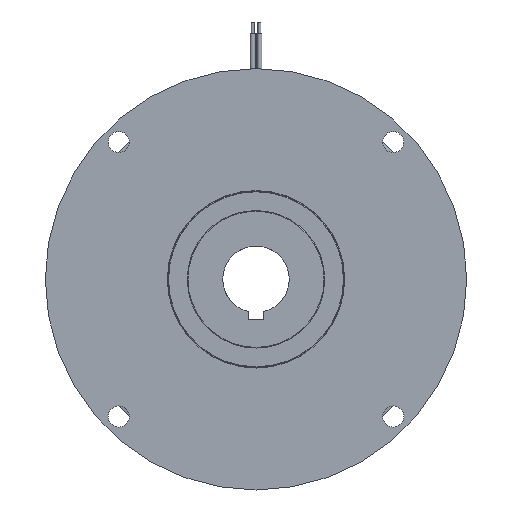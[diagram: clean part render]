
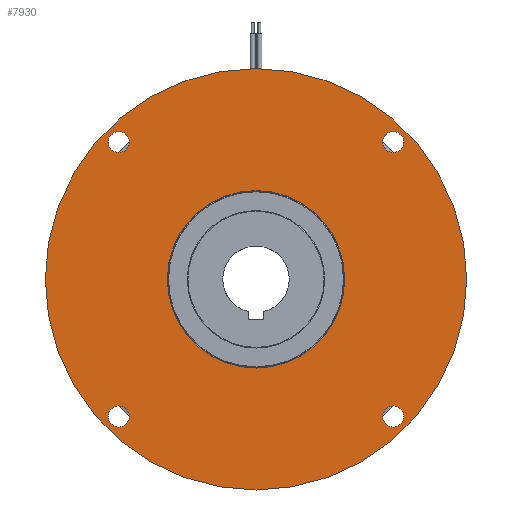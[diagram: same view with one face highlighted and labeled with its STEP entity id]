
A CAD part, front view. The second image highlights one B-rep face of the part: STEP entity #7930.
In plain terms, the highlighted planar face has unit normal (0, -1, 0).
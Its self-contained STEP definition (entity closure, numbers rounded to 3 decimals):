
#60 = DIRECTION ( 'NONE',  ( 0., 0., 1. ) ) ;
#193 = AXIS2_PLACEMENT_3D ( 'NONE', #6507, #2798, #3527 ) ;
#304 = DIRECTION ( 'NONE',  ( 0., 1., 0. ) ) ;
#364 = CIRCLE ( 'NONE', #8284, 40. ) ;
#368 = CARTESIAN_POINT ( 'NONE',  ( -61.872, 0., 57.122 ) ) ;
#372 = CARTESIAN_POINT ( 'NONE',  ( -61.872, 0., -66.622 ) ) ;
#650 = AXIS2_PLACEMENT_3D ( 'NONE', #5064, #4940, #7943 ) ;
#785 = CIRCLE ( 'NONE', #193, 4.75 ) ;
#794 = VERTEX_POINT ( 'NONE', #2701 ) ;
#1204 = CARTESIAN_POINT ( 'NONE',  ( 0., 0., 0. ) ) ;
#1294 = EDGE_CURVE ( 'NONE', #7509, #4501, #6478, .T. ) ;
#1524 = VERTEX_POINT ( 'NONE', #9194 ) ;
#1534 = VERTEX_POINT ( 'NONE', #368 ) ;
#1616 = AXIS2_PLACEMENT_3D ( 'NONE', #9518, #2201, #60 ) ;
#1960 = CIRCLE ( 'NONE', #5315, 4.75 ) ;
#2037 = ORIENTED_EDGE ( 'NONE', *, *, #6535, .T. ) ;
#2089 = EDGE_LOOP ( 'NONE', ( #2314, #3119 ) ) ;
#2201 = DIRECTION ( 'NONE',  ( 0., 1., 0. ) ) ;
#2213 = ORIENTED_EDGE ( 'NONE', *, *, #3895, .T. ) ;
#2308 = CARTESIAN_POINT ( 'NONE',  ( -61.872, 0., 61.872 ) ) ;
#2314 = ORIENTED_EDGE ( 'NONE', *, *, #7970, .T. ) ;
#2470 = AXIS2_PLACEMENT_3D ( 'NONE', #2308, #8828, #6664 ) ;
#2547 = DIRECTION ( 'NONE',  ( 0., 1., 0. ) ) ;
#2553 = ORIENTED_EDGE ( 'NONE', *, *, #7177, .T. ) ;
#2591 = AXIS2_PLACEMENT_3D ( 'NONE', #6250, #6282, #5468 ) ;
#2613 = VERTEX_POINT ( 'NONE', #3952 ) ;
#2646 = DIRECTION ( 'NONE',  ( 0., 0., 1. ) ) ;
#2701 = CARTESIAN_POINT ( 'NONE',  ( 61.872, 0., -66.622 ) ) ;
#2718 = CIRCLE ( 'NONE', #3790, 95. ) ;
#2742 = DIRECTION ( 'NONE',  ( 0., 1., 0. ) ) ;
#2798 = DIRECTION ( 'NONE',  ( 0., 1., 0. ) ) ;
#2874 = FACE_BOUND ( 'NONE', #5836, .T. ) ;
#2904 = VERTEX_POINT ( 'NONE', #8591 ) ;
#2994 = CARTESIAN_POINT ( 'NONE',  ( 0., 0., 0. ) ) ;
#3007 = DIRECTION ( 'NONE',  ( 0., 0., 1. ) ) ;
#3119 = ORIENTED_EDGE ( 'NONE', *, *, #3863, .T. ) ;
#3432 = ORIENTED_EDGE ( 'NONE', *, *, #1294, .T. ) ;
#3527 = DIRECTION ( 'NONE',  ( 0., 0., 1. ) ) ;
#3559 = CIRCLE ( 'NONE', #1616, 4.75 ) ;
#3579 = FACE_BOUND ( 'NONE', #2089, .T. ) ;
#3733 = DIRECTION ( 'NONE',  ( 0., 0., 1. ) ) ;
#3790 = AXIS2_PLACEMENT_3D ( 'NONE', #2994, #6565, #4375 ) ;
#3819 = ORIENTED_EDGE ( 'NONE', *, *, #6774, .T. ) ;
#3829 = EDGE_LOOP ( 'NONE', ( #7721, #8541 ) ) ;
#3863 = EDGE_CURVE ( 'NONE', #2904, #4784, #6084, .T. ) ;
#3895 = EDGE_CURVE ( 'NONE', #3966, #4879, #8163, .T. ) ;
#3952 = CARTESIAN_POINT ( 'NONE',  ( 0., 0., 95. ) ) ;
#3966 = VERTEX_POINT ( 'NONE', #7226 ) ;
#4012 = EDGE_CURVE ( 'NONE', #1524, #1534, #3559, .T. ) ;
#4071 = DIRECTION ( 'NONE',  ( 0., 0., 1. ) ) ;
#4208 = CARTESIAN_POINT ( 'NONE',  ( 61.872, 0., -61.872 ) ) ;
#4238 = DIRECTION ( 'NONE',  ( 0., 1., 0. ) ) ;
#4361 = EDGE_CURVE ( 'NONE', #6545, #2613, #9419, .T. ) ;
#4375 = DIRECTION ( 'NONE',  ( 0., 0., 1. ) ) ;
#4379 = FACE_BOUND ( 'NONE', #7261, .T. ) ;
#4394 = CIRCLE ( 'NONE', #2470, 4.75 ) ;
#4480 = EDGE_CURVE ( 'NONE', #4785, #794, #6880, .T. ) ;
#4501 = VERTEX_POINT ( 'NONE', #5089 ) ;
#4784 = VERTEX_POINT ( 'NONE', #5478 ) ;
#4785 = VERTEX_POINT ( 'NONE', #5447 ) ;
#4879 = VERTEX_POINT ( 'NONE', #372 ) ;
#4940 = DIRECTION ( 'NONE',  ( 0., 1., 0. ) ) ;
#4963 = CARTESIAN_POINT ( 'NONE',  ( 61.872, 0., 66.622 ) ) ;
#5064 = CARTESIAN_POINT ( 'NONE',  ( 0., 0., 0. ) ) ;
#5089 = CARTESIAN_POINT ( 'NONE',  ( 61.872, 0., 57.122 ) ) ;
#5128 = EDGE_CURVE ( 'NONE', #2613, #6545, #2718, .T. ) ;
#5315 = AXIS2_PLACEMENT_3D ( 'NONE', #6652, #6682, #3733 ) ;
#5405 = FACE_BOUND ( 'NONE', #7657, .T. ) ;
#5447 = CARTESIAN_POINT ( 'NONE',  ( 61.872, 0., -57.122 ) ) ;
#5468 = DIRECTION ( 'NONE',  ( 0., 0., 1. ) ) ;
#5478 = CARTESIAN_POINT ( 'NONE',  ( 0., 0., 40. ) ) ;
#5536 = FACE_BOUND ( 'NONE', #6413, .T. ) ;
#5694 = DIRECTION ( 'NONE',  ( 0., 0., 1. ) ) ;
#5745 = CARTESIAN_POINT ( 'NONE',  ( -61.872, 0., -61.872 ) ) ;
#5780 = DIRECTION ( 'NONE',  ( 0., 1., 0. ) ) ;
#5836 = EDGE_LOOP ( 'NONE', ( #6237, #2037 ) ) ;
#5934 = DIRECTION ( 'NONE',  ( 0., 1., 0. ) ) ;
#6084 = CIRCLE ( 'NONE', #650, 40. ) ;
#6237 = ORIENTED_EDGE ( 'NONE', *, *, #4012, .T. ) ;
#6250 = CARTESIAN_POINT ( 'NONE',  ( 61.872, 0., 61.872 ) ) ;
#6282 = DIRECTION ( 'NONE',  ( 0., 1., 0. ) ) ;
#6316 = AXIS2_PLACEMENT_3D ( 'NONE', #9034, #304, #6893 ) ;
#6407 = EDGE_CURVE ( 'NONE', #4879, #3966, #785, .T. ) ;
#6413 = EDGE_LOOP ( 'NONE', ( #2213, #7062 ) ) ;
#6478 = CIRCLE ( 'NONE', #6480, 4.75 ) ;
#6480 = AXIS2_PLACEMENT_3D ( 'NONE', #8900, #5934, #3007 ) ;
#6507 = CARTESIAN_POINT ( 'NONE',  ( -61.872, 0., -61.872 ) ) ;
#6531 = CARTESIAN_POINT ( 'NONE',  ( 0., 0., -95. ) ) ;
#6535 = EDGE_CURVE ( 'NONE', #1534, #1524, #4394, .T. ) ;
#6545 = VERTEX_POINT ( 'NONE', #6531 ) ;
#6565 = DIRECTION ( 'NONE',  ( 0., 1., 0. ) ) ;
#6652 = CARTESIAN_POINT ( 'NONE',  ( 61.872, 0., -61.872 ) ) ;
#6664 = DIRECTION ( 'NONE',  ( 0., 0., 1. ) ) ;
#6682 = DIRECTION ( 'NONE',  ( 0., 1., 0. ) ) ;
#6699 = CIRCLE ( 'NONE', #2591, 4.75 ) ;
#6774 = EDGE_CURVE ( 'NONE', #4501, #7509, #6699, .T. ) ;
#6880 = CIRCLE ( 'NONE', #7000, 4.75 ) ;
#6893 = DIRECTION ( 'NONE',  ( 0., 0., 1. ) ) ;
#7000 = AXIS2_PLACEMENT_3D ( 'NONE', #4208, #2742, #7164 ) ;
#7062 = ORIENTED_EDGE ( 'NONE', *, *, #6407, .T. ) ;
#7164 = DIRECTION ( 'NONE',  ( 0., 0., 1. ) ) ;
#7177 = EDGE_CURVE ( 'NONE', #794, #4785, #1960, .T. ) ;
#7226 = CARTESIAN_POINT ( 'NONE',  ( -61.872, 0., -57.122 ) ) ;
#7230 = AXIS2_PLACEMENT_3D ( 'NONE', #8589, #4238, #2646 ) ;
#7261 = EDGE_LOOP ( 'NONE', ( #3432, #3819 ) ) ;
#7360 = FACE_OUTER_BOUND ( 'NONE', #3829, .T. ) ;
#7509 = VERTEX_POINT ( 'NONE', #4963 ) ;
#7549 = ORIENTED_EDGE ( 'NONE', *, *, #4480, .T. ) ;
#7657 = EDGE_LOOP ( 'NONE', ( #7549, #2553 ) ) ;
#7721 = ORIENTED_EDGE ( 'NONE', *, *, #5128, .F. ) ;
#7870 = AXIS2_PLACEMENT_3D ( 'NONE', #5745, #5780, #5694 ) ;
#7930 = ADVANCED_FACE ( 'NONE', ( #5536, #2874, #4379, #5405, #7360, #3579 ), #8411, .F. ) ;
#7943 = DIRECTION ( 'NONE',  ( 0., 0., 1. ) ) ;
#7970 = EDGE_CURVE ( 'NONE', #4784, #2904, #364, .T. ) ;
#8163 = CIRCLE ( 'NONE', #7870, 4.75 ) ;
#8284 = AXIS2_PLACEMENT_3D ( 'NONE', #1204, #2547, #4071 ) ;
#8411 = PLANE ( 'NONE',  #6316 ) ;
#8541 = ORIENTED_EDGE ( 'NONE', *, *, #4361, .F. ) ;
#8589 = CARTESIAN_POINT ( 'NONE',  ( 0., 0., 0. ) ) ;
#8591 = CARTESIAN_POINT ( 'NONE',  ( 0., 0., -40. ) ) ;
#8828 = DIRECTION ( 'NONE',  ( 0., 1., 0. ) ) ;
#8900 = CARTESIAN_POINT ( 'NONE',  ( 61.872, 0., 61.872 ) ) ;
#9034 = CARTESIAN_POINT ( 'NONE',  ( 40., 0., 0. ) ) ;
#9194 = CARTESIAN_POINT ( 'NONE',  ( -61.872, 0., 66.622 ) ) ;
#9419 = CIRCLE ( 'NONE', #7230, 95. ) ;
#9518 = CARTESIAN_POINT ( 'NONE',  ( -61.872, 0., 61.872 ) ) ;
